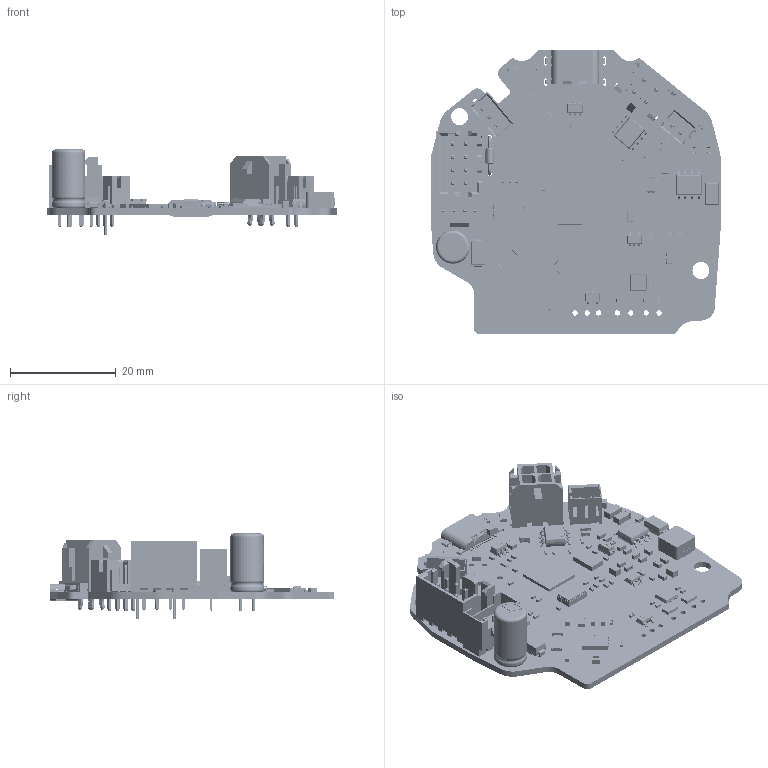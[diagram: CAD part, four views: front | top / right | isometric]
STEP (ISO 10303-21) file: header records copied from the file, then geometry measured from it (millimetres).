
FILE_DESCRIPTION(('Designed by EasyEDA Pro'),'2;1');
FILE_NAME('Open CASCADE Shape Model','2023-03-08T09:56:02',('Author'),( 'Open CASCADE'),'Open CASCADE STEP processor 7.6','Open CASCADE 7.6' ,'Unknown');
FILE_SCHEMA(('AUTOMOTIVE_DESIGN { 1 0 10303 214 1 1 1 1 }'));
Length unit declared in the file: millimetre
Products named in the file (189): PCBModel; COMPOUND; C40; C0402; SOLID; C39; C13; C12; C2; C38; C28; C26; C25; C24; C23; C1; C8; C6; C10; C15; C9; C7; C4; C5; C14; C16; C30; CN10; CONN-TH_4P-P3.00-V-R2-C2-S3.00_X3025WV-2X02-46SN; D2; DO-34_BD1.6-L3.0-P7.00-D0.6-RD; R10; R0603; R39; R28; R29; R19; R40; R41; R45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
Assembly tree (267 placements, depth 4):
  PCBModel
    COMPOUND
    C40
      C0402
        SOLID
    C39
      C0402
        SOLID
    C13
      C0402
        SOLID
    C12
      C0402
        SOLID
    C2
      C0402
        SOLID
    C38
      C0402
        SOLID
    C28
      C0402
        SOLID
    C26
      C0402
        SOLID
    C25
      C0402
        SOLID
    C24
      C0402
        SOLID
    C23
      C0402
        SOLID
    C1
      C0402
        SOLID
    C8
      C0402
        SOLID
    C6
      C0402
        SOLID
    C10
      C0402
        SOLID
    C15
      C0402
        SOLID
    C9
      C0402
        SOLID
    C7
      C0402
        SOLID
    C4
      C0402
        SOLID
    C5
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Bounding box: 54.98 x 53.83 x 16.11 mm (x, y, z)
Volume: 5083.4 mm3; surface area: 10861.8 mm2
Topology: 412 solids, 412 shells, 42159 faces, 111806 edges, 72321 vertices
Faces by surface type: plane 23662, bspline 12549, cylinder 4743, sphere 856, torus 325, cone 20, revolution 4
Full cylindrical faces by diameter (mm): 0.701 x2, 0.8 x2, 0.899 x5, 1 x9, 1.001 x4, 1.1 x8, 1.199 x6, 3.2 x2
Entity records: 722246 total; most frequent: CARTESIAN_POINT 227254, ORIENTED_EDGE 82782, DIRECTION 58487, EDGE_CURVE 41391, LINE 28285, VECTOR 28285, VERTEX_POINT 26934, FACE_BOUND 16916
